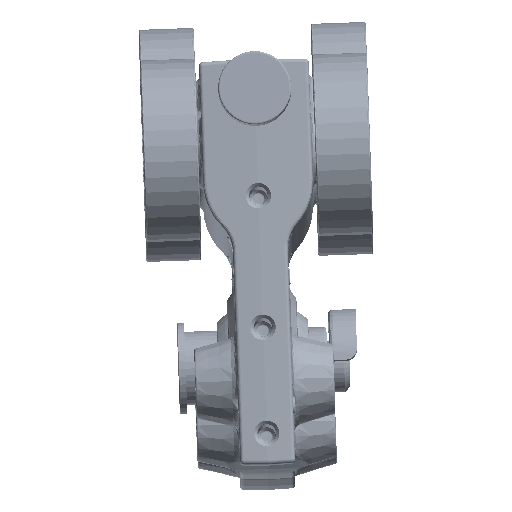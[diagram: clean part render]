
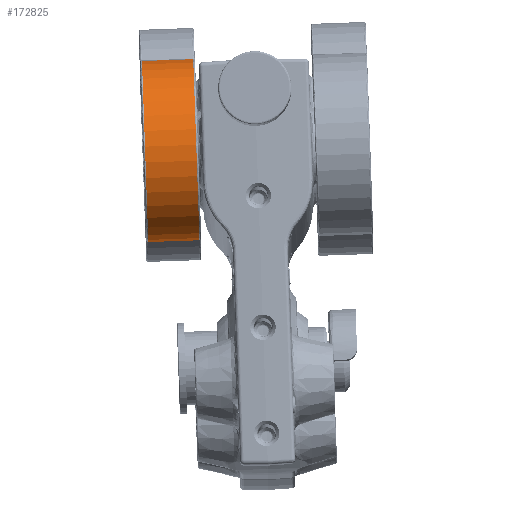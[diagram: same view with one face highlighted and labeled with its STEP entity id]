
A CAD part, front view. The second image highlights one B-rep face of the part: STEP entity #172825.
In plain terms, the highlighted cylindrical face has radius 24.85 mm (diameter 49.7 mm), a partial arc.
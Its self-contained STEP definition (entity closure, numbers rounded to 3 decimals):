
#9909 = CIRCLE ( 'NONE', #83120, 24.85 ) ;
#10342 = DIRECTION ( 'NONE',  ( -1., 0., 0. ) ) ;
#10825 = LINE ( 'NONE', #171668, #169237 ) ;
#16246 = VERTEX_POINT ( 'NONE', #127241 ) ;
#18255 = AXIS2_PLACEMENT_3D ( 'NONE', #61408, #48024, #86414 ) ;
#18629 = EDGE_CURVE ( 'NONE', #16246, #137858, #20015, .T. ) ;
#18792 = CARTESIAN_POINT ( 'NONE',  ( -7., 0., -24.85 ) ) ;
#20015 = CIRCLE ( 'NONE', #58775, 24.85 ) ;
#27356 = EDGE_CURVE ( 'NONE', #58797, #170328, #9909, .T. ) ;
#28776 = CARTESIAN_POINT ( 'NONE',  ( 7., 0., -24.85 ) ) ;
#35439 = EDGE_LOOP ( 'NONE', ( #99531, #79885, #145337, #41626 ) ) ;
#38954 = FACE_OUTER_BOUND ( 'NONE', #35439, .T. ) ;
#41626 = ORIENTED_EDGE ( 'NONE', *, *, #44262, .F. ) ;
#44262 = EDGE_CURVE ( 'NONE', #16246, #58797, #10825, .T. ) ;
#47299 = CYLINDRICAL_SURFACE ( 'NONE', #18255, 24.85 ) ;
#48024 = DIRECTION ( 'NONE',  ( -1., 0., 0. ) ) ;
#58775 = AXIS2_PLACEMENT_3D ( 'NONE', #72914, #166102, #86281 ) ;
#58797 = VERTEX_POINT ( 'NONE', #110109 ) ;
#61408 = CARTESIAN_POINT ( 'NONE',  ( 0., 0., 0. ) ) ;
#72914 = CARTESIAN_POINT ( 'NONE',  ( 7., 0., 0. ) ) ;
#79885 = ORIENTED_EDGE ( 'NONE', *, *, #127463, .T. ) ;
#83120 = AXIS2_PLACEMENT_3D ( 'NONE', #159451, #119832, #146558 ) ;
#86281 = DIRECTION ( 'NONE',  ( 0., 0., 1. ) ) ;
#86414 = DIRECTION ( 'NONE',  ( 0., 0., 1. ) ) ;
#92795 = VECTOR ( 'NONE', #121253, 1000. ) ;
#99531 = ORIENTED_EDGE ( 'NONE', *, *, #18629, .T. ) ;
#107866 = CARTESIAN_POINT ( 'NONE',  ( 0., 0., -24.85 ) ) ;
#110109 = CARTESIAN_POINT ( 'NONE',  ( -7., 0., 24.85 ) ) ;
#119832 = DIRECTION ( 'NONE',  ( -1., 0., 0. ) ) ;
#121253 = DIRECTION ( 'NONE',  ( -1., 0., 0. ) ) ;
#127241 = CARTESIAN_POINT ( 'NONE',  ( 7., 0., 24.85 ) ) ;
#127463 = EDGE_CURVE ( 'NONE', #137858, #170328, #159691, .T. ) ;
#137858 = VERTEX_POINT ( 'NONE', #28776 ) ;
#145337 = ORIENTED_EDGE ( 'NONE', *, *, #27356, .F. ) ;
#146558 = DIRECTION ( 'NONE',  ( 0., 0., 1. ) ) ;
#159451 = CARTESIAN_POINT ( 'NONE',  ( -7., 0., 0. ) ) ;
#159691 = LINE ( 'NONE', #107866, #92795 ) ;
#166102 = DIRECTION ( 'NONE',  ( -1., 0., 0. ) ) ;
#169237 = VECTOR ( 'NONE', #10342, 1000. ) ;
#170328 = VERTEX_POINT ( 'NONE', #18792 ) ;
#171668 = CARTESIAN_POINT ( 'NONE',  ( 0., 0., 24.85 ) ) ;
#172825 = ADVANCED_FACE ( 'NONE', ( #38954 ), #47299, .T. ) ;
